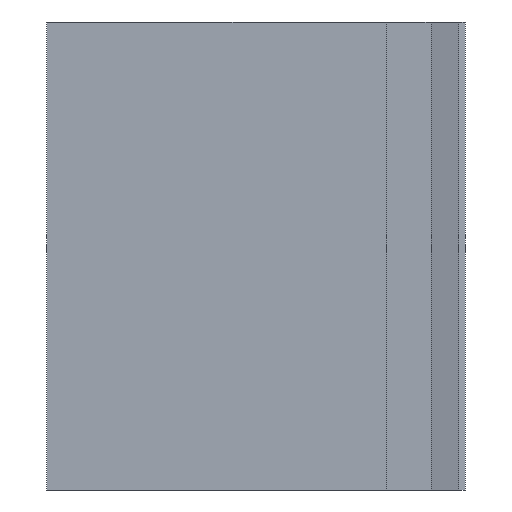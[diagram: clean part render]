
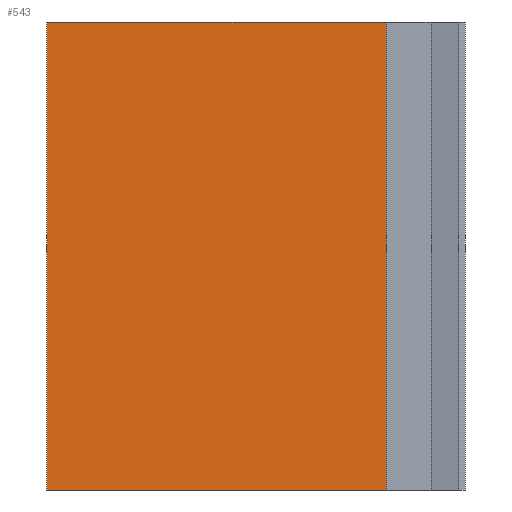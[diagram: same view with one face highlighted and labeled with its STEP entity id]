
A CAD part, left-side view. The second image highlights one B-rep face of the part: STEP entity #543.
In plain terms, the highlighted planar face has unit normal (-1, 0, 0).
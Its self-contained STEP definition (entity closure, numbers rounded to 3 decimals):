
#17=FACE_OUTER_BOUND('',#45,.T.);
#45=EDGE_LOOP('',(#365,#366,#367,#368));
#78=LINE('',#754,#156);
#79=LINE('',#756,#157);
#80=LINE('',#758,#158);
#81=LINE('',#759,#159);
#156=VECTOR('',#614,10.);
#157=VECTOR('',#615,10.);
#158=VECTOR('',#616,10.);
#159=VECTOR('',#617,10.);
#233=VERTEX_POINT('',#752);
#234=VERTEX_POINT('',#753);
#235=VERTEX_POINT('',#755);
#236=VERTEX_POINT('',#757);
#286=EDGE_CURVE('',#233,#234,#78,.T.);
#287=EDGE_CURVE('',#235,#233,#79,.T.);
#288=EDGE_CURVE('',#236,#235,#80,.T.);
#289=EDGE_CURVE('',#234,#236,#81,.T.);
#365=ORIENTED_EDGE('',*,*,#286,.F.);
#366=ORIENTED_EDGE('',*,*,#287,.F.);
#367=ORIENTED_EDGE('',*,*,#288,.F.);
#368=ORIENTED_EDGE('',*,*,#289,.F.);
#515=PLANE('',#573);
#543=ADVANCED_FACE('',(#17),#515,.F.);
#573=AXIS2_PLACEMENT_3D('',#751,#612,#613);
#612=DIRECTION('center_axis',(1.,0.,0.));
#613=DIRECTION('ref_axis',(0.,0.,-1.));
#614=DIRECTION('',(0.,1.,0.));
#615=DIRECTION('',(0.,0.,-1.));
#616=DIRECTION('',(0.,-1.,0.));
#617=DIRECTION('',(0.,0.,1.));
#751=CARTESIAN_POINT('Origin',(4.5,14.4,15.7));
#752=CARTESIAN_POINT('',(4.5,3.,0.));
#753=CARTESIAN_POINT('',(4.5,25.8,0.));
#754=CARTESIAN_POINT('',(4.5,7.374,0.));
#755=CARTESIAN_POINT('',(4.5,3.,31.4));
#756=CARTESIAN_POINT('',(4.5,3.,7.85));
#757=CARTESIAN_POINT('',(4.5,25.8,31.4));
#758=CARTESIAN_POINT('',(4.5,7.374,31.4));
#759=CARTESIAN_POINT('',(4.5,25.8,15.7));
